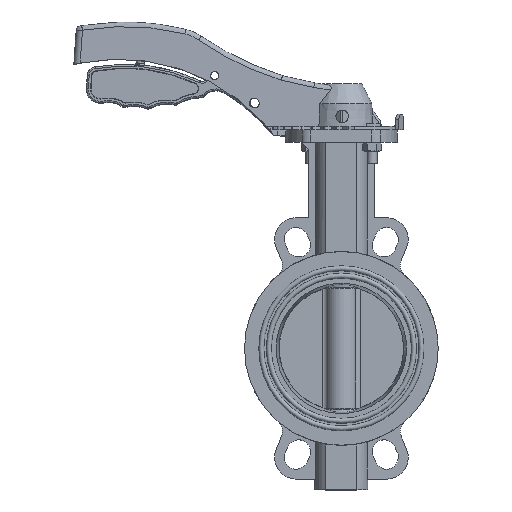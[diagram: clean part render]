
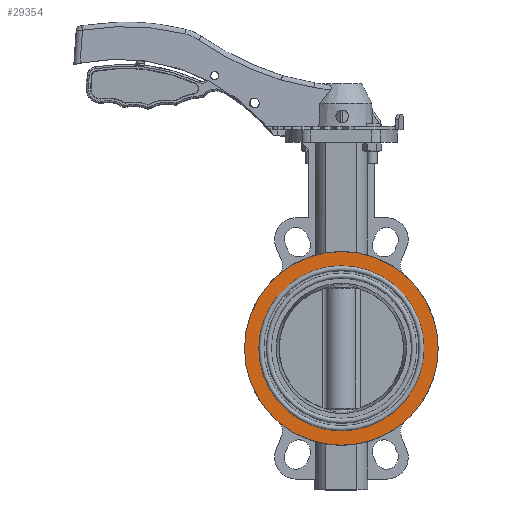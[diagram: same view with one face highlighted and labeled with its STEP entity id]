
A CAD part, top view. The second image highlights one B-rep face of the part: STEP entity #29354.
In plain terms, the highlighted planar face has unit normal (0, 0, 1).
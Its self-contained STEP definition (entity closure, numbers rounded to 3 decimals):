
#607 = CARTESIAN_POINT ( 'NONE',  ( -89.759, 5.341, 26. ) ) ;
#3507 = AXIS2_PLACEMENT_3D ( 'NONE', #28426, #64374, #58132 ) ;
#5170 = DIRECTION ( 'NONE',  ( 0., 0., -1. ) ) ;
#11532 = VERTEX_POINT ( 'NONE', #31812 ) ;
#13664 = ORIENTED_EDGE ( 'NONE', *, *, #55394, .T. ) ;
#14775 = CARTESIAN_POINT ( 'NONE',  ( -23.259, 5.341, 26. ) ) ;
#16594 = AXIS2_PLACEMENT_3D ( 'NONE', #14775, #5170, #35126 ) ;
#22413 = FACE_BOUND ( 'NONE', #42970, .T. ) ;
#28356 = FACE_OUTER_BOUND ( 'NONE', #43103, .T. ) ;
#28426 = CARTESIAN_POINT ( 'NONE',  ( -23.259, 5.341, 26. ) ) ;
#29354 = ADVANCED_FACE ( 'NONE', ( #28356, #22413 ), #38424, .T. ) ;
#31812 = CARTESIAN_POINT ( 'NONE',  ( -101.259, 5.341, 26. ) ) ;
#33386 = DIRECTION ( 'NONE',  ( 0., 0., 1. ) ) ;
#35126 = DIRECTION ( 'NONE',  ( -1., 0., 0. ) ) ;
#36152 = EDGE_CURVE ( 'NONE', #11532, #11532, #59821, .T. ) ;
#38424 = PLANE ( 'NONE',  #49433 ) ;
#42970 = EDGE_LOOP ( 'NONE', ( #13664 ) ) ;
#43103 = EDGE_LOOP ( 'NONE', ( #65700 ) ) ;
#45372 = CIRCLE ( 'NONE', #16594, 66.5 ) ;
#49433 = AXIS2_PLACEMENT_3D ( 'NONE', #58680, #33386, #59316 ) ;
#55394 = EDGE_CURVE ( 'NONE', #56115, #56115, #45372, .T. ) ;
#56115 = VERTEX_POINT ( 'NONE', #607 ) ;
#58132 = DIRECTION ( 'NONE',  ( -1., 0., 0. ) ) ;
#58680 = CARTESIAN_POINT ( 'NONE',  ( -91.759, 5.341, 26. ) ) ;
#59316 = DIRECTION ( 'NONE',  ( 1., 0., 0. ) ) ;
#59821 = CIRCLE ( 'NONE', #3507, 78. ) ;
#64374 = DIRECTION ( 'NONE',  ( 0., 0., -1. ) ) ;
#65700 = ORIENTED_EDGE ( 'NONE', *, *, #36152, .F. ) ;
